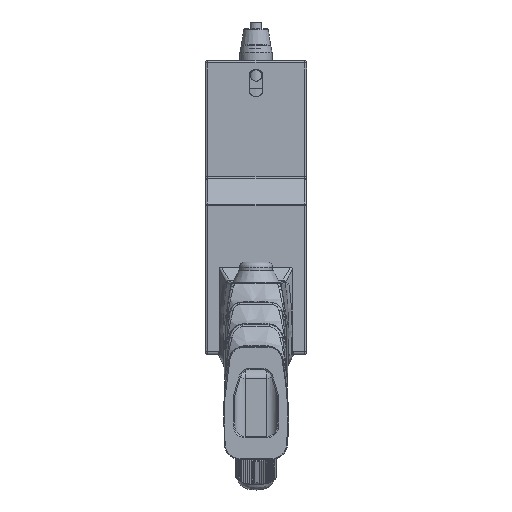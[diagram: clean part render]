
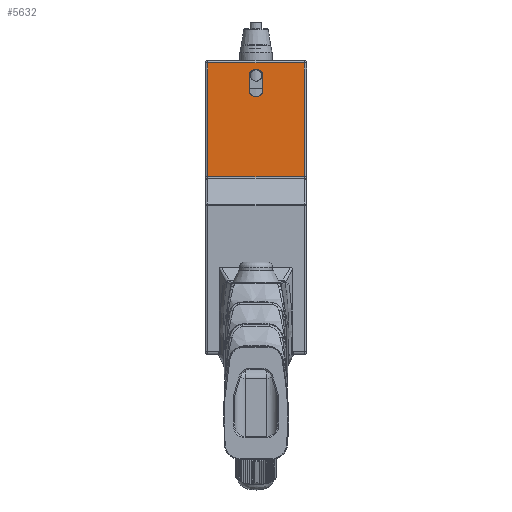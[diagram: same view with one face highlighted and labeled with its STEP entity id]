
A CAD part, front view. The second image highlights one B-rep face of the part: STEP entity #5632.
In plain terms, the highlighted planar face has unit normal (0, -1, 0).
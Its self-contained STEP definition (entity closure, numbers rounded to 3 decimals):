
#383 = CARTESIAN_POINT ( 'NONE',  ( -70.116, 45.423, 1103.848 ) ) ;
#716 = CARTESIAN_POINT ( 'NONE',  ( -49.516, 45.423, 1113.848 ) ) ;
#1271 = DIRECTION ( 'NONE',  ( 0., 0., -1. ) ) ;
#1281 = DIRECTION ( 'NONE',  ( 0., 0., -1. ) ) ;
#2865 = VECTOR ( 'NONE', #12917, 1000. ) ;
#4288 = VERTEX_POINT ( 'NONE', #716 ) ;
#4950 = ORIENTED_EDGE ( 'NONE', *, *, #60237, .T. ) ;
#5497 = LINE ( 'NONE', #34329, #9708 ) ;
#5632 = ADVANCED_FACE ( 'NONE', ( #45506, #39670 ), #60726, .T. ) ;
#6790 = LINE ( 'NONE', #16450, #44088 ) ;
#7754 = LINE ( 'NONE', #17431, #2865 ) ;
#7793 = ORIENTED_EDGE ( 'NONE', *, *, #35271, .T. ) ;
#8250 = DIRECTION ( 'NONE',  ( 0., 0., 1. ) ) ;
#9708 = VECTOR ( 'NONE', #1271, 1000. ) ;
#11825 = VERTEX_POINT ( 'NONE', #39313 ) ;
#12917 = DIRECTION ( 'NONE',  ( -1., 0., 0. ) ) ;
#13093 = DIRECTION ( 'NONE',  ( 1., 0., 0. ) ) ;
#13382 = DIRECTION ( 'NONE',  ( 0., 0., -1. ) ) ;
#14653 = DIRECTION ( 'NONE',  ( 0., 1., 0. ) ) ;
#16450 = CARTESIAN_POINT ( 'NONE',  ( -64.916, 45.423, 1103.848 ) ) ;
#17431 = CARTESIAN_POINT ( 'NONE',  ( -86.516, 45.423, 1113.848 ) ) ;
#17923 = CARTESIAN_POINT ( 'NONE',  ( -48.516, 45.423, 1071.263 ) ) ;
#17969 = CARTESIAN_POINT ( 'NONE',  ( -64.916, 45.423, 1103.848 ) ) ;
#18982 = VERTEX_POINT ( 'NONE', #17969 ) ;
#19551 = DIRECTION ( 'NONE',  ( 0., 0., -1. ) ) ;
#20183 = DIRECTION ( 'NONE',  ( 0., 1., 0. ) ) ;
#20277 = CARTESIAN_POINT ( 'NONE',  ( -49.516, 45.423, 1071.263 ) ) ;
#21003 = EDGE_CURVE ( 'NONE', #46572, #11825, #5497, .T. ) ;
#22164 = VECTOR ( 'NONE', #8250, 1000. ) ;
#24742 = DIRECTION ( 'NONE',  ( 0., -1., 0. ) ) ;
#27362 = EDGE_CURVE ( 'NONE', #52962, #4288, #28006, .T. ) ;
#28006 = LINE ( 'NONE', #52371, #22164 ) ;
#28293 = EDGE_CURVE ( 'NONE', #18982, #50408, #30398, .T. ) ;
#28334 = AXIS2_PLACEMENT_3D ( 'NONE', #54616, #20183, #19551 ) ;
#30398 = CIRCLE ( 'NONE', #28334, 2.6 ) ;
#32382 = VECTOR ( 'NONE', #33869, 1000. ) ;
#33742 = AXIS2_PLACEMENT_3D ( 'NONE', #34772, #24742, #45188 ) ;
#33780 = ORIENTED_EDGE ( 'NONE', *, *, #62076, .T. ) ;
#33869 = DIRECTION ( 'NONE',  ( 0., 0., 1. ) ) ;
#34329 = CARTESIAN_POINT ( 'NONE',  ( -85.516, 45.423, 1114.848 ) ) ;
#34772 = CARTESIAN_POINT ( 'NONE',  ( -67.516, 45.423, 1114.848 ) ) ;
#35168 = EDGE_CURVE ( 'NONE', #50408, #54994, #57914, .T. ) ;
#35271 = EDGE_CURVE ( 'NONE', #54994, #39339, #48998, .T. ) ;
#38870 = CARTESIAN_POINT ( 'NONE',  ( -64.916, 45.423, 1108.848 ) ) ;
#39313 = CARTESIAN_POINT ( 'NONE',  ( -85.516, 45.423, 1071.263 ) ) ;
#39339 = VERTEX_POINT ( 'NONE', #38870 ) ;
#39670 = FACE_BOUND ( 'NONE', #45417, .T. ) ;
#44088 = VECTOR ( 'NONE', #1281, 1000. ) ;
#44420 = CARTESIAN_POINT ( 'NONE',  ( -70.116, 45.423, 1108.848 ) ) ;
#45188 = DIRECTION ( 'NONE',  ( 0., 0., -1. ) ) ;
#45417 = EDGE_LOOP ( 'NONE', ( #50058, #59776, #7793, #51981 ) ) ;
#45506 = FACE_OUTER_BOUND ( 'NONE', #48751, .T. ) ;
#45890 = AXIS2_PLACEMENT_3D ( 'NONE', #63646, #14653, #13382 ) ;
#46572 = VERTEX_POINT ( 'NONE', #61109 ) ;
#46859 = LINE ( 'NONE', #17923, #63609 ) ;
#48751 = EDGE_LOOP ( 'NONE', ( #53967, #4950, #51524, #33780 ) ) ;
#48998 = CIRCLE ( 'NONE', #45890, 2.6 ) ;
#50058 = ORIENTED_EDGE ( 'NONE', *, *, #28293, .T. ) ;
#50408 = VERTEX_POINT ( 'NONE', #383 ) ;
#51524 = ORIENTED_EDGE ( 'NONE', *, *, #21003, .T. ) ;
#51981 = ORIENTED_EDGE ( 'NONE', *, *, #57765, .T. ) ;
#52371 = CARTESIAN_POINT ( 'NONE',  ( -49.516, 45.423, 1114.848 ) ) ;
#52962 = VERTEX_POINT ( 'NONE', #20277 ) ;
#53378 = CARTESIAN_POINT ( 'NONE',  ( -70.116, 45.423, 1103.848 ) ) ;
#53967 = ORIENTED_EDGE ( 'NONE', *, *, #27362, .T. ) ;
#54616 = CARTESIAN_POINT ( 'NONE',  ( -67.516, 45.423, 1103.848 ) ) ;
#54994 = VERTEX_POINT ( 'NONE', #44420 ) ;
#57765 = EDGE_CURVE ( 'NONE', #39339, #18982, #6790, .T. ) ;
#57914 = LINE ( 'NONE', #53378, #32382 ) ;
#59776 = ORIENTED_EDGE ( 'NONE', *, *, #35168, .T. ) ;
#60237 = EDGE_CURVE ( 'NONE', #4288, #46572, #7754, .T. ) ;
#60726 = PLANE ( 'NONE',  #33742 ) ;
#61109 = CARTESIAN_POINT ( 'NONE',  ( -85.516, 45.423, 1113.848 ) ) ;
#62076 = EDGE_CURVE ( 'NONE', #11825, #52962, #46859, .T. ) ;
#63609 = VECTOR ( 'NONE', #13093, 1000. ) ;
#63646 = CARTESIAN_POINT ( 'NONE',  ( -67.516, 45.423, 1108.848 ) ) ;
